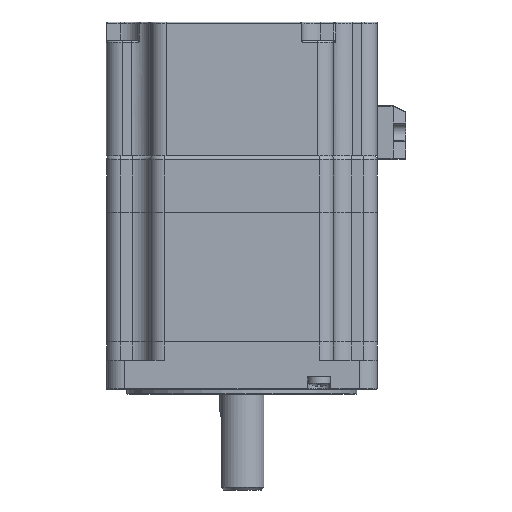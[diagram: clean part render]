
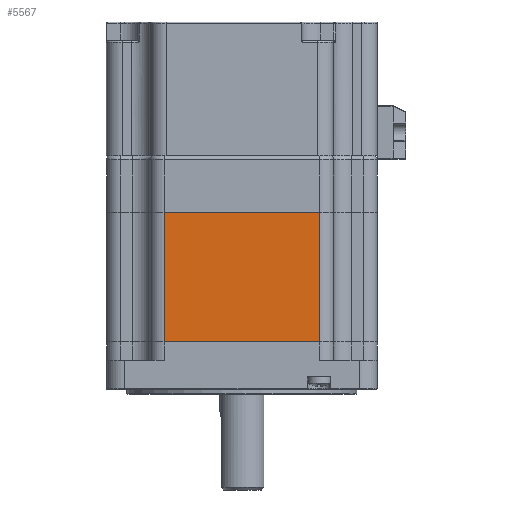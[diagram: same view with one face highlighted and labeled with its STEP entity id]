
A CAD part, left-side view. The second image highlights one B-rep face of the part: STEP entity #5567.
In plain terms, the highlighted planar face has unit normal (-1, 0, 0).
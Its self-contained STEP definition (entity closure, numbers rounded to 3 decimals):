
#154 = ORIENTED_EDGE ( 'NONE', *, *, #4995, .F. ) ;
#431 = VERTEX_POINT ( 'NONE', #10587 ) ;
#863 = VERTEX_POINT ( 'NONE', #3206 ) ;
#1702 = ORIENTED_EDGE ( 'NONE', *, *, #12902, .T. ) ;
#1806 = LINE ( 'NONE', #9400, #7422 ) ;
#1919 = VECTOR ( 'NONE', #4505, 1000. ) ;
#2173 = CARTESIAN_POINT ( 'NONE',  ( -42.925, -24.65, -41. ) ) ;
#2517 = CARTESIAN_POINT ( 'NONE',  ( -42.925, -24.65, -41. ) ) ;
#2606 = DIRECTION ( 'NONE',  ( 0., 0., 1. ) ) ;
#3206 = CARTESIAN_POINT ( 'NONE',  ( -42.925, 24.65, 0. ) ) ;
#4019 = CARTESIAN_POINT ( 'NONE',  ( -42.925, -24.65, -41. ) ) ;
#4455 = VERTEX_POINT ( 'NONE', #4019 ) ;
#4505 = DIRECTION ( 'NONE',  ( 0., -1., 0. ) ) ;
#4662 = LINE ( 'NONE', #2173, #1919 ) ;
#4995 = EDGE_CURVE ( 'NONE', #5287, #863, #1806, .T. ) ;
#5149 = ORIENTED_EDGE ( 'NONE', *, *, #7342, .F. ) ;
#5287 = VERTEX_POINT ( 'NONE', #11238 ) ;
#5567 = ADVANCED_FACE ( 'NONE', ( #8853 ), #14038, .T. ) ;
#5928 = LINE ( 'NONE', #7927, #13824 ) ;
#6837 = VECTOR ( 'NONE', #8791, 1000. ) ;
#7342 = EDGE_CURVE ( 'NONE', #863, #431, #13847, .T. ) ;
#7422 = VECTOR ( 'NONE', #9540, 1000. ) ;
#7927 = CARTESIAN_POINT ( 'NONE',  ( -42.925, -24.65, -41. ) ) ;
#8791 = DIRECTION ( 'NONE',  ( 0., -1., 0. ) ) ;
#8853 = FACE_OUTER_BOUND ( 'NONE', #12880, .T. ) ;
#9400 = CARTESIAN_POINT ( 'NONE',  ( -42.925, 24.65, -41. ) ) ;
#9540 = DIRECTION ( 'NONE',  ( 0., 0., 1. ) ) ;
#10587 = CARTESIAN_POINT ( 'NONE',  ( -42.925, -24.65, 0. ) ) ;
#11238 = CARTESIAN_POINT ( 'NONE',  ( -42.925, 24.65, -41. ) ) ;
#11648 = ORIENTED_EDGE ( 'NONE', *, *, #12882, .T. ) ;
#12880 = EDGE_LOOP ( 'NONE', ( #5149, #154, #11648, #1702 ) ) ;
#12882 = EDGE_CURVE ( 'NONE', #5287, #4455, #4662, .T. ) ;
#12902 = EDGE_CURVE ( 'NONE', #4455, #431, #5928, .T. ) ;
#12919 = DIRECTION ( 'NONE',  ( -1., 0., 0. ) ) ;
#13378 = CARTESIAN_POINT ( 'NONE',  ( -42.925, -24.65, 0. ) ) ;
#13762 = AXIS2_PLACEMENT_3D ( 'NONE', #2517, #12919, #2606 ) ;
#13824 = VECTOR ( 'NONE', #14774, 1000. ) ;
#13847 = LINE ( 'NONE', #13378, #6837 ) ;
#14038 = PLANE ( 'NONE',  #13762 ) ;
#14774 = DIRECTION ( 'NONE',  ( 0., 0., 1. ) ) ;
